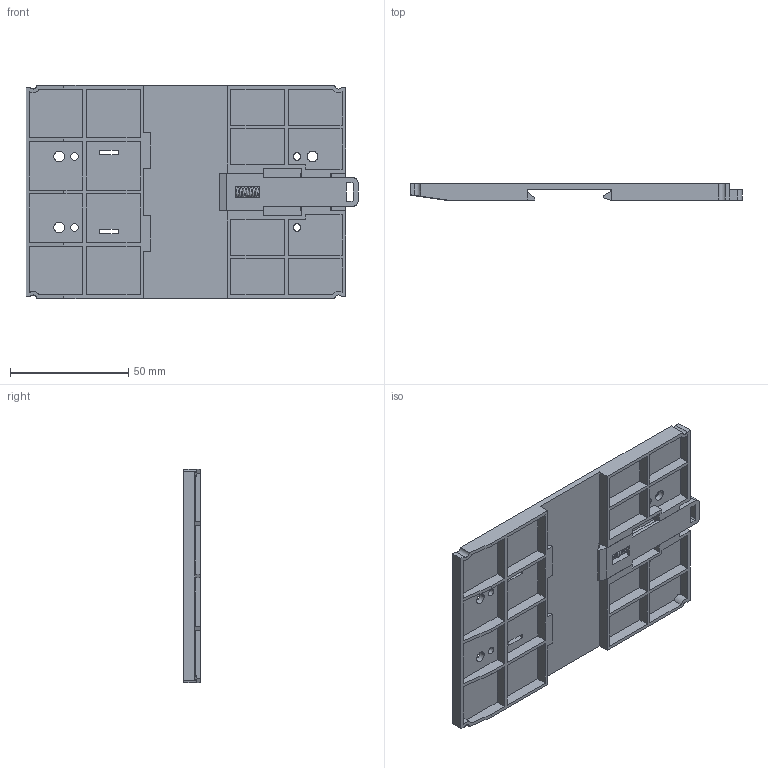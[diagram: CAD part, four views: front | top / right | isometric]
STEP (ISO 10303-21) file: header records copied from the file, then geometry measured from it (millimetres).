
FILE_DESCRIPTION (( 'STEP AP203' ), '1' );
FILE_NAME ('絳寢.STEP', '2024-09-24T03:20:59', ( 'A' ), ( '' ), 'SwSTEP 2.0', 'SolidWorks 2018', '' );
FILE_SCHEMA (( 'CONFIG_CONTROL_DESIGN' ));
Length unit declared in the file: millimetre
Products named in the file (4): 絳寢1足1“_; 8LD.056.1000; 8LD.140.1000; 8LD.282.1030
Assembly tree (3 placements, depth 2):
  絳寢1足1“_
    8LD.056.1000
    8LD.140.1000
    8LD.282.1030
Bounding box: 140.25 x 7 x 90 mm (x, y, z)
Volume: 38415.9 mm3; surface area: 37771.7 mm2
Topology: 3 solids, 3 shells, 256 faces, 723 edges, 482 vertices
Faces by surface type: plane 227, cylinder 28, bspline 1
Entity records: 14511 total; most frequent: CARTESIAN_POINT 7354, ORIENTED_EDGE 1446, DIRECTION 1294, EDGE_CURVE 723, VECTOR 662, LINE 662, VERTEX_POINT 482, AXIS2_PLACEMENT_3D 316
